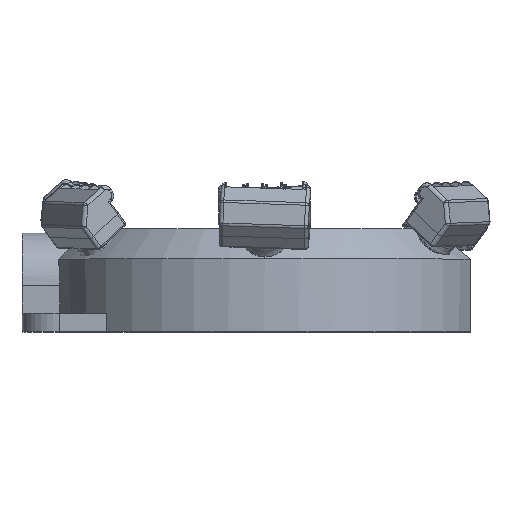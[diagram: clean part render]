
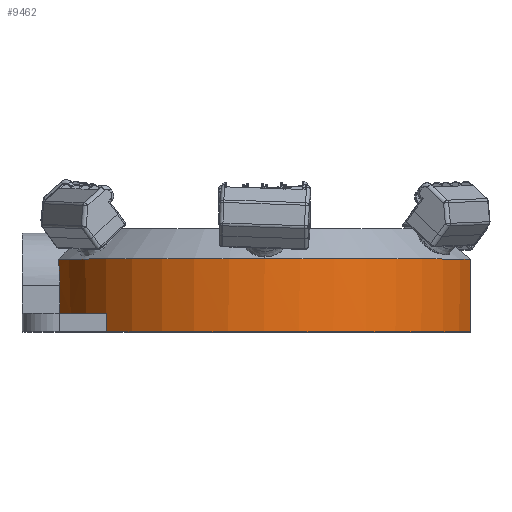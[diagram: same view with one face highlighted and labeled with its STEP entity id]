
A CAD part, top view. The second image highlights one B-rep face of the part: STEP entity #9462.
In plain terms, the highlighted cylindrical face has radius 56.6 mm (diameter 113.2 mm), a partial arc.
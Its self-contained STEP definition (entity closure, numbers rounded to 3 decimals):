
#1319 = CARTESIAN_POINT ( 'NONE',  ( -55.291, 19.512, 12.103 ) ) ;
#1346 = CARTESIAN_POINT ( 'NONE',  ( 55.087, 19.512, 13. ) ) ;
#1347 = DIRECTION ( 'NONE',  ( 0., 0., -1. ) ) ;
#1348 = DIRECTION ( 'NONE',  ( 0., -1., 0. ) ) ;
#1349 = CARTESIAN_POINT ( 'NONE',  ( 0., 19.512, 0. ) ) ;
#1350 = AXIS2_PLACEMENT_3D ( 'NONE', #1349, #1348, #1347 ) ;
#1351 = CIRCLE ( 'NONE', #1350, 56.6 ) ;
#1352 = CARTESIAN_POINT ( 'NONE',  ( 0., 19.512, 56.6 ) ) ;
#1357 = DIRECTION ( 'NONE',  ( 0., 0., -1. ) ) ;
#1358 = DIRECTION ( 'NONE',  ( 0., -1., 0. ) ) ;
#1359 = CARTESIAN_POINT ( 'NONE',  ( 0., 19.512, 0. ) ) ;
#1360 = AXIS2_PLACEMENT_3D ( 'NONE', #1359, #1358, #1357 ) ;
#1361 = CIRCLE ( 'NONE', #1360, 56.6 ) ;
#2072 = AXIS2_PLACEMENT_3D ( 'NONE', #2134, #2133, #2132 ) ;
#2073 = CIRCLE ( 'NONE', #2072, 56.6 ) ;
#2074 = CARTESIAN_POINT ( 'NONE',  ( -42.395, 5., 37.5 ) ) ;
#2075 = CARTESIAN_POINT ( 'NONE',  ( -42.395, 0., 37.5 ) ) ;
#2076 = DIRECTION ( 'NONE',  ( 0., 1., 0. ) ) ;
#2077 = VECTOR ( 'NONE', #2076, 1000. ) ;
#2078 = CARTESIAN_POINT ( 'NONE',  ( -42.395, 0., 37.5 ) ) ;
#2083 = LINE ( 'NONE', #2078, #2077 ) ;
#2127 = DIRECTION ( 'NONE',  ( 0., 1., 0. ) ) ;
#2128 = VECTOR ( 'NONE', #2127, 1000. ) ;
#2129 = CARTESIAN_POINT ( 'NONE',  ( 55.087, 0., 13. ) ) ;
#2130 = LINE ( 'NONE', #2129, #2128 ) ;
#2131 = CARTESIAN_POINT ( 'NONE',  ( 55.087, 0., 13. ) ) ;
#2132 = DIRECTION ( 'NONE',  ( 0., 0., -1. ) ) ;
#2133 = DIRECTION ( 'NONE',  ( 0., -1., 0. ) ) ;
#2134 = CARTESIAN_POINT ( 'NONE',  ( 0., 0., 0. ) ) ;
#2253 = CARTESIAN_POINT ( 'NONE',  ( -54.841, 12.475, 14. ) ) ;
#2254 = DIRECTION ( 'NONE',  ( 0., 0., -1. ) ) ;
#2255 = DIRECTION ( 'NONE',  ( 0., -1., 0. ) ) ;
#2256 = AXIS2_PLACEMENT_3D ( 'NONE', #2260, #2255, #2254 ) ;
#2257 = CYLINDRICAL_SURFACE ( 'NONE', #2256, 56.6 ) ;
#2260 = CARTESIAN_POINT ( 'NONE',  ( 0., 0., 0. ) ) ;
#2262 = FACE_OUTER_BOUND ( 'NONE', #9463, .T. ) ;
#2278 = DIRECTION ( 'NONE',  ( 0., 0., -1. ) ) ;
#2279 = DIRECTION ( 'NONE',  ( 0., -1., 0. ) ) ;
#2280 = CARTESIAN_POINT ( 'NONE',  ( 0., 5., 0. ) ) ;
#2281 = AXIS2_PLACEMENT_3D ( 'NONE', #2280, #2279, #2278 ) ;
#2282 = CIRCLE ( 'NONE', #2281, 56.6 ) ;
#2284 = CARTESIAN_POINT ( 'NONE',  ( -54.841, 5., 14. ) ) ;
#2285 = DIRECTION ( 'NONE',  ( 0., -1., 0. ) ) ;
#2286 = VECTOR ( 'NONE', #2285, 1000. ) ;
#2287 = CARTESIAN_POINT ( 'NONE',  ( -54.841, 0., 14. ) ) ;
#2288 = LINE ( 'NONE', #2287, #2286 ) ;
#2289 = CARTESIAN_POINT ( 'NONE',  ( -54.841, 12.475, 14. ) ) ;
#2290 = CARTESIAN_POINT ( 'NONE',  ( -54.841, 13.095, 14. ) ) ;
#2291 = CARTESIAN_POINT ( 'NONE',  ( -54.852, 13.712, 13.959 ) ) ;
#2292 = CARTESIAN_POINT ( 'NONE',  ( -54.893, 14.935, 13.796 ) ) ;
#2293 = CARTESIAN_POINT ( 'NONE',  ( -54.924, 15.545, 13.673 ) ) ;
#2294 = CARTESIAN_POINT ( 'NONE',  ( -55.042, 17.321, 13.192 ) ) ;
#2295 = CARTESIAN_POINT ( 'NONE',  ( -55.155, 18.446, 12.723 ) ) ;
#2296 = CARTESIAN_POINT ( 'NONE',  ( -55.291, 19.512, 12.103 ) ) ;
#2297 = B_SPLINE_CURVE_WITH_KNOTS ( 'NONE', 3,
 ( #2296, #2295, #2294, #2293, #2292, #2291, #2290, #2289 ),
 .UNSPECIFIED., .F., .F.,
 ( 4, 2, 2, 4 ),
 ( 0., 0.004, 0.006, 0.007 ),
 .UNSPECIFIED. ) ;
#9133 = VERTEX_POINT ( 'NONE', #1319 ) ;
#9143 = EDGE_CURVE ( 'NONE', #9149, #9133, #1361, .T. ) ;
#9149 = VERTEX_POINT ( 'NONE', #1352 ) ;
#9151 = EDGE_CURVE ( 'NONE', #9153, #9149, #1351, .T. ) ;
#9153 = VERTEX_POINT ( 'NONE', #1346 ) ;
#9403 = ORIENTED_EDGE ( 'NONE', *, *, #9404, .F. ) ;
#9404 = EDGE_CURVE ( 'NONE', #9405, #9406, #2083, .T. ) ;
#9405 = VERTEX_POINT ( 'NONE', #2075 ) ;
#9406 = VERTEX_POINT ( 'NONE', #2074 ) ;
#9407 = ORIENTED_EDGE ( 'NONE', *, *, #9408, .F. ) ;
#9408 = EDGE_CURVE ( 'NONE', #9409, #9405, #2073, .T. ) ;
#9409 = VERTEX_POINT ( 'NONE', #2131 ) ;
#9410 = ORIENTED_EDGE ( 'NONE', *, *, #9411, .T. ) ;
#9411 = EDGE_CURVE ( 'NONE', #9409, #9153, #2130, .T. ) ;
#9412 = ORIENTED_EDGE ( 'NONE', *, *, #9151, .T. ) ;
#9462 = ADVANCED_FACE ( 'NONE', ( #2262 ), #2257, .T. ) ;
#9463 = EDGE_LOOP ( 'NONE', ( #9403, #9407, #9410, #9412, #9464, #9465, #9468, #9471 ) ) ;
#9464 = ORIENTED_EDGE ( 'NONE', *, *, #9143, .T. ) ;
#9465 = ORIENTED_EDGE ( 'NONE', *, *, #9466, .T. ) ;
#9466 = EDGE_CURVE ( 'NONE', #9133, #9467, #2297, .T. ) ;
#9467 = VERTEX_POINT ( 'NONE', #2253 ) ;
#9468 = ORIENTED_EDGE ( 'NONE', *, *, #9469, .T. ) ;
#9469 = EDGE_CURVE ( 'NONE', #9467, #9470, #2288, .T. ) ;
#9470 = VERTEX_POINT ( 'NONE', #2284 ) ;
#9471 = ORIENTED_EDGE ( 'NONE', *, *, #9472, .F. ) ;
#9472 = EDGE_CURVE ( 'NONE', #9406, #9470, #2282, .T. ) ;
